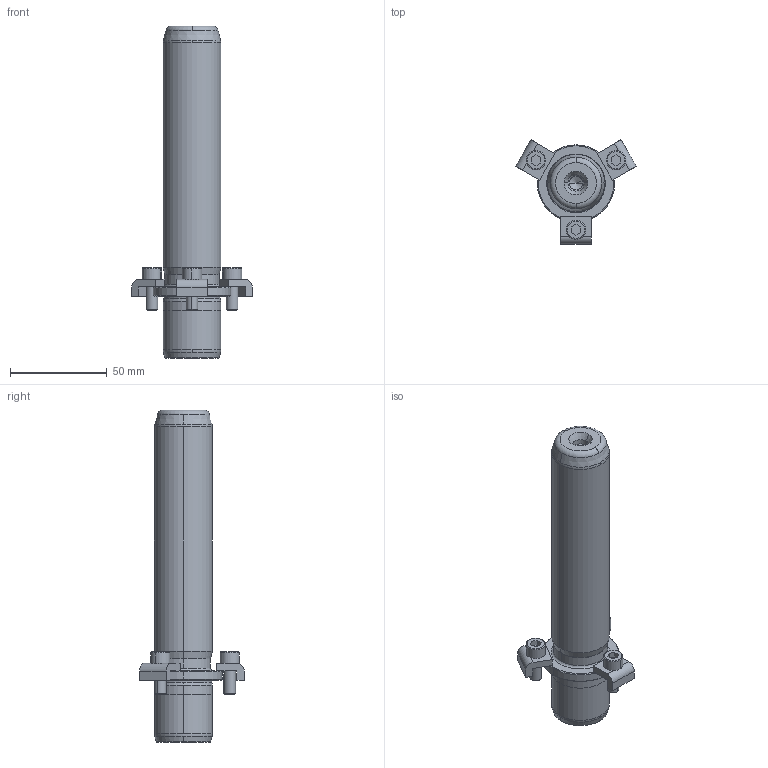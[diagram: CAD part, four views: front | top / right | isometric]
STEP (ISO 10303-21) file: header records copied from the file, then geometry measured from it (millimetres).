
FILE_DESCRIPTION((''),'2;1');
FILE_NAME('P21_030_140.stp','2008-12-23T09:55:57',(''),(''),'Mechanical Desktop 2009','Mechanical Desktop 2009',', , ');
FILE_SCHEMA(('CONFIG_CONTROL_DESIGN'));
Length unit declared in the file: millimetre
Products named in the file (2): Product; blmdl1
Assembly tree (1 placements, depth 2):
  Product
    blmdl1
Bounding box: 62.51 x 54.13 x 172 mm (x, y, z)
Volume: 125587.8 mm3; surface area: 24143 mm2
Topology: 7 solids, 7 shells, 163 faces, 399 edges, 257 vertices
Faces by surface type: plane 59, cylinder 44, cone 32, torus 14, bspline 14
Entity records: 5517 total; most frequent: CARTESIAN_POINT 1433, DIRECTION 908, ORIENTED_EDGE 790, EDGE_CURVE 395, AXIS2_PLACEMENT_3D 362, VERTEX_POINT 257, CIRCLE 211, VECTOR 184
